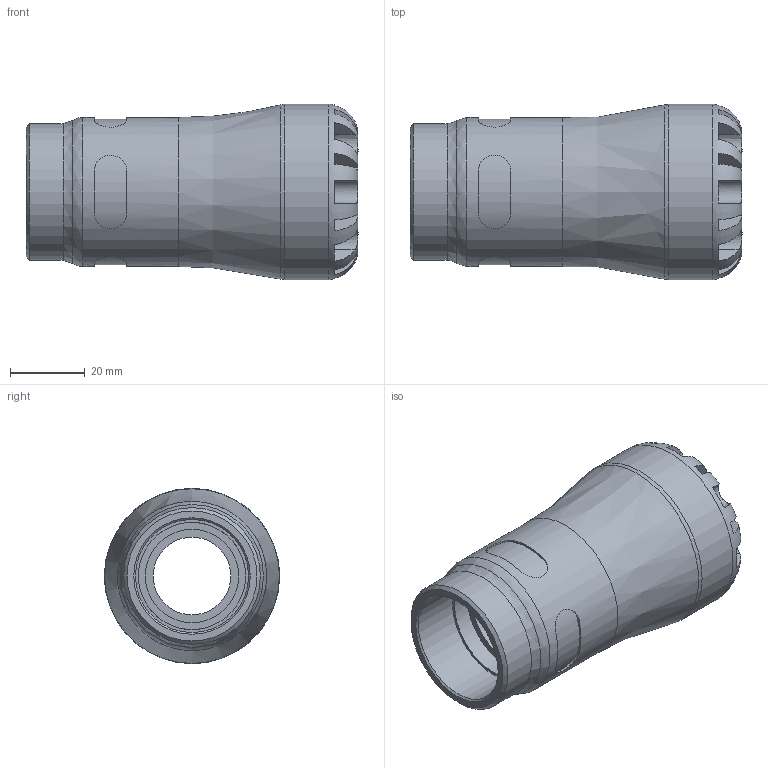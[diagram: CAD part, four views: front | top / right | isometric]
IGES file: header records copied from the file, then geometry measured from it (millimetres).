
Global section: file name: 1073G0025010.ipt; native system: Autodesk Inventor 2015; preprocessor: unknown; author: KIM; date: 20170122.113810; units: millimetre
Bounding box: 89 x 47 x 47 mm (x, y, z)
Volume: 71738 mm3; surface area: 22030.3 mm2
Topology: 1 solids, 1 shells, 108 faces, 278 edges, 180 vertices
Faces by surface type: plane 63, revolution 29, cylinder 15, cone 1
Full cylindrical faces by diameter (mm): 36.66 x1, 39.95 x1, 47 x1
